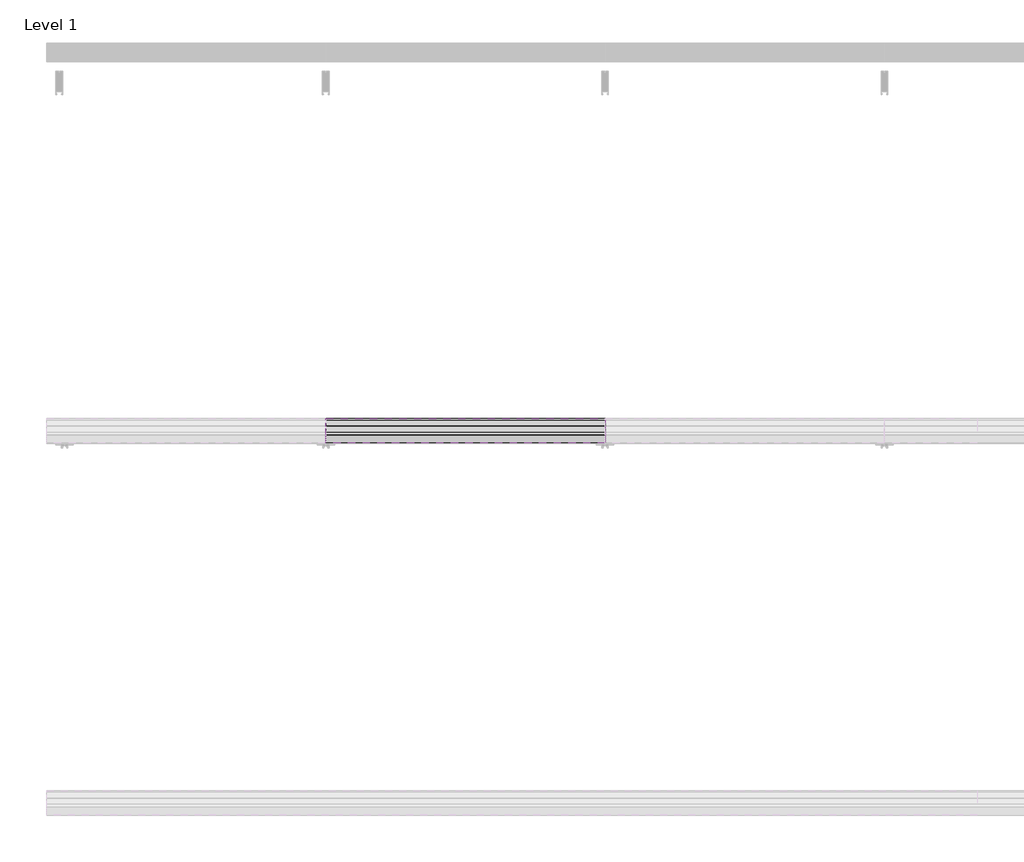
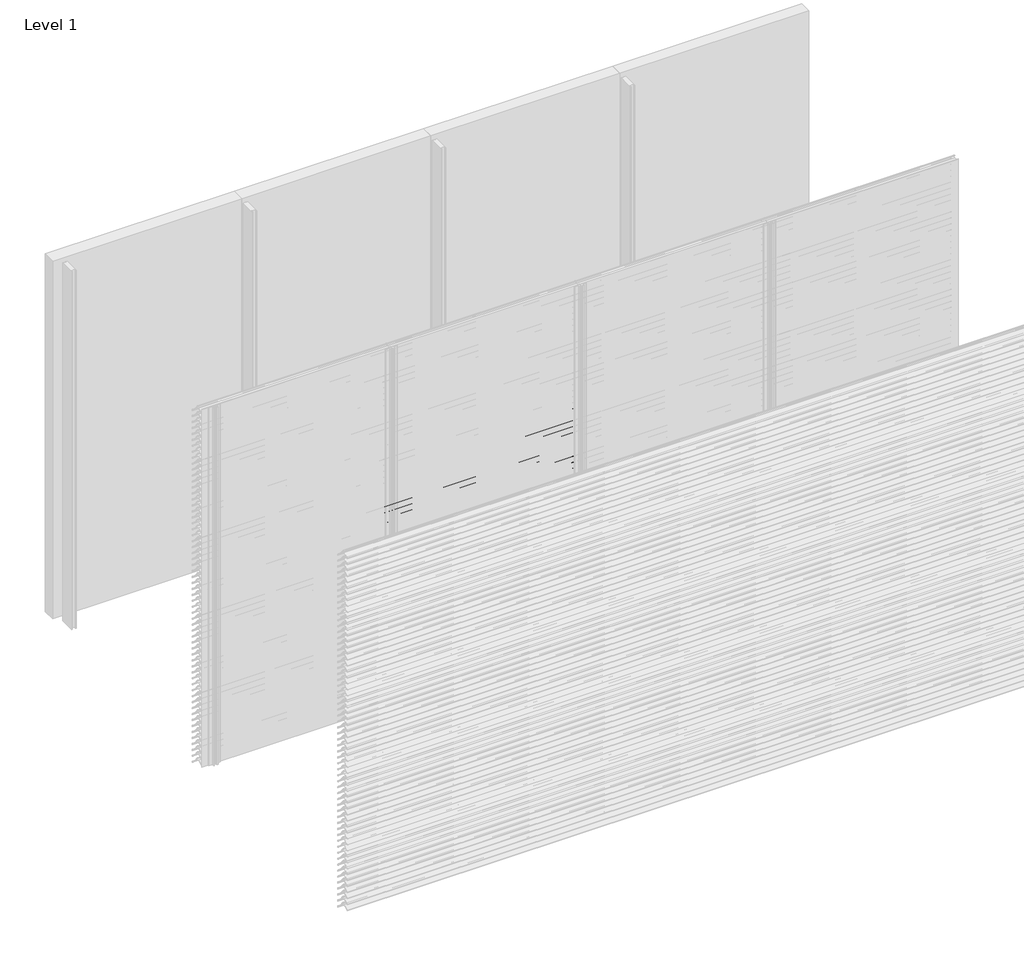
# One storey, part 11 of 173: 17 proxies.
"""IFC4 building model written with IfcOpenShell, lengths in millimetres."""

from ifc_helpers import new_model, si_unit, point, frame, frame_2d, origin, place, context, project, spatial, polyline, circle_curve, trimmed, segment, composite_curve, outline, extrude, element, save

model = new_model("IFC4")

# Units and contexts
model_context = context("Model", 3, world=origin())
ifc_project = project(units=[si_unit("LENGTHUNIT", "METRE", prefix="MILLI")], contexts=[model_context])

# Site, building, storey
site = spatial("IfcSite", under=ifc_project)
building = spatial("IfcBuilding", under=site)
storey = spatial("IfcBuildingStorey", under=building, Name="Level 1", Elevation=0.0)

# Proxies
placement = place(None, origin())
element("IfcBuildingElementProxy", 1, Name="Wall Sweeps", at=placement, inside=storey, context=model_context, shape_type="SweptSolid", body=[
    extrude(outline(composite_curve([segment(polyline([(-53998.0, 1909.1474905), (-53998.0, 1911.6227417)]), True, "CONTINUOUS"), segment(trimmed(circle_curve(frame_2d((-53951.2682172, 1866.2200208)), 65.1557103), [point((-53998.0, 1911.6227417))], [point((-53954.4014323, 1931.3003524))], False, "CARTESIAN"), True, "CONTINUOUS"), segment(polyline([(-53954.4014323, 1931.3003524), (-53934.8315836, 1931.3003524)]), True, "CONTINUOUS"), segment(trimmed(circle_curve(frame_2d((-53732.7329489, 2078.5533172)), 250.0545817), [point((-53934.8315836, 1931.3003524))], [point((-53941.4452143, 1940.8344583))], False, "CARTESIAN"), True, "CONTINUOUS"), segment(trimmed(circle_curve(frame_2d((-53953.2981792, 1935.1737835)), 13.1352966), [point((-53941.4452143, 1940.8344583))], [point((-53953.8171475, 1948.298824))], True, "CARTESIAN"), True, "CONTINUOUS"), segment(polyline([(-53953.8171475, 1948.298824), (-53953.8171475, 1950.0)]), True, "CONTINUOUS"), segment(trimmed(circle_curve(frame_2d((-53953.2981792, 1935.1737835)), 14.8352966), [point((-53953.8171475, 1950.0))], [point((-53939.9637661, 1941.6760487))], False, "CARTESIAN"), True, "CONTINUOUS"), segment(trimmed(circle_curve(frame_2d((-53732.7329489, 2078.5533172)), 248.3545817), [point((-53939.9637661, 1941.6760487))], [point((-53873.8787895, 1874.2059416))], True, "CARTESIAN"), True, "CONTINUOUS"), segment(trimmed(circle_curve(frame_2d((-53883.8147537, 1861.6649442)), 16.0), [point((-53873.8787895, 1874.2059416))], [point((-53867.8648347, 1860.4))], False, "CARTESIAN"), True, "CONTINUOUS"), segment(polyline([(-53867.8648347, 1860.4), (-53869.6712069, 1860.4)]), True, "CONTINUOUS"), segment(trimmed(circle_curve(frame_2d((-53883.8147537, 1861.6649442)), 14.2), [point((-53869.6712069, 1860.4))], [point((-53874.9518628, 1872.7594998))], True, "CARTESIAN"), True, "CONTINUOUS"), segment(trimmed(circle_curve(frame_2d((-53732.7329489, 2078.5533172)), 250.1545817), [point((-53874.9518628, 1872.7594998))], [point((-53933.7064024, 1929.6003524))], False, "CARTESIAN"), True, "CONTINUOUS"), segment(polyline([(-53933.7064024, 1929.6003524), (-53954.3602632, 1929.6003524)]), True, "CONTINUOUS"), segment(trimmed(circle_curve(frame_2d((-53951.2682172, 1866.2200208)), 63.4557103), [point((-53954.3602632, 1929.6003524))], [point((-53998.0, 1909.1474905))], True, "CARTESIAN"), True, "CONTINUOUS")], self_intersect=False)), frame((1500.0, 0.0, 0.0), z_axis=(1.0, 0.0, 0.0), x_axis=(0.0, 1.0, 0.0)), (0.0, 0.0, 1.0), 1500.0),
])
element("IfcBuildingElementProxy", 2, Name="Wall Sweeps", at=placement, inside=storey, context=model_context, shape_type="SweptSolid", body=[
    extrude(outline(composite_curve([segment(polyline([(-53998.0, 1859.1474905), (-53998.0, 1861.6227417)]), True, "CONTINUOUS"), segment(trimmed(circle_curve(frame_2d((-53951.2682172, 1816.2200208)), 65.1557103), [point((-53998.0, 1861.6227417))], [point((-53954.4014323, 1881.3003524))], False, "CARTESIAN"), True, "CONTINUOUS"), segment(polyline([(-53954.4014323, 1881.3003524), (-53934.8315836, 1881.3003524)]), True, "CONTINUOUS"), segment(trimmed(circle_curve(frame_2d((-53732.7329489, 2028.5533172)), 250.0545817), [point((-53934.8315836, 1881.3003524))], [point((-53941.4452143, 1890.8344583))], False, "CARTESIAN"), True, "CONTINUOUS"), segment(trimmed(circle_curve(frame_2d((-53953.2981792, 1885.1737835)), 13.1352966), [point((-53941.4452143, 1890.8344583))], [point((-53953.8171475, 1898.298824))], True, "CARTESIAN"), True, "CONTINUOUS"), segment(polyline([(-53953.8171475, 1898.298824), (-53953.8171475, 1900.0)]), True, "CONTINUOUS"), segment(trimmed(circle_curve(frame_2d((-53953.2981792, 1885.1737835)), 14.8352966), [point((-53953.8171475, 1900.0))], [point((-53939.9637661, 1891.6760487))], False, "CARTESIAN"), True, "CONTINUOUS"), segment(trimmed(circle_curve(frame_2d((-53732.7329489, 2028.5533172)), 248.3545817), [point((-53939.9637661, 1891.6760487))], [point((-53873.8787895, 1824.2059416))], True, "CARTESIAN"), True, "CONTINUOUS"), segment(trimmed(circle_curve(frame_2d((-53883.8147537, 1811.6649442)), 16.0), [point((-53873.8787895, 1824.2059416))], [point((-53867.8648347, 1810.4))], False, "CARTESIAN"), True, "CONTINUOUS"), segment(polyline([(-53867.8648347, 1810.4), (-53869.6712069, 1810.4)]), True, "CONTINUOUS"), segment(trimmed(circle_curve(frame_2d((-53883.8147537, 1811.6649442)), 14.2), [point((-53869.6712069, 1810.4))], [point((-53874.9518628, 1822.7594998))], True, "CARTESIAN"), True, "CONTINUOUS"), segment(trimmed(circle_curve(frame_2d((-53732.7329489, 2028.5533172)), 250.1545817), [point((-53874.9518628, 1822.7594998))], [point((-53933.7064024, 1879.6003524))], False, "CARTESIAN"), True, "CONTINUOUS"), segment(polyline([(-53933.7064024, 1879.6003524), (-53954.3602632, 1879.6003524)]), True, "CONTINUOUS"), segment(trimmed(circle_curve(frame_2d((-53951.2682172, 1816.2200208)), 63.4557103), [point((-53954.3602632, 1879.6003524))], [point((-53998.0, 1859.1474905))], True, "CARTESIAN"), True, "CONTINUOUS")], self_intersect=False)), frame((1500.0, 0.0, 0.0), z_axis=(1.0, 0.0, 0.0), x_axis=(0.0, 1.0, 0.0)), (0.0, 0.0, 1.0), 1500.0),
])
element("IfcBuildingElementProxy", 3, Name="Wall Sweeps", at=placement, inside=storey, context=model_context, shape_type="SweptSolid", body=[
    extrude(outline(composite_curve([segment(polyline([(-53998.0, 1809.1474905), (-53998.0, 1811.6227417)]), True, "CONTINUOUS"), segment(trimmed(circle_curve(frame_2d((-53951.2682172, 1766.2200208)), 65.1557103), [point((-53998.0, 1811.6227417))], [point((-53954.4014323, 1831.3003524))], False, "CARTESIAN"), True, "CONTINUOUS"), segment(polyline([(-53954.4014323, 1831.3003524), (-53934.8315836, 1831.3003524)]), True, "CONTINUOUS"), segment(trimmed(circle_curve(frame_2d((-53732.7329489, 1978.5533172)), 250.0545817), [point((-53934.8315836, 1831.3003524))], [point((-53941.4452143, 1840.8344583))], False, "CARTESIAN"), True, "CONTINUOUS"), segment(trimmed(circle_curve(frame_2d((-53953.2981792, 1835.1737835)), 13.1352966), [point((-53941.4452143, 1840.8344583))], [point((-53953.8171475, 1848.298824))], True, "CARTESIAN"), True, "CONTINUOUS"), segment(polyline([(-53953.8171475, 1848.298824), (-53953.8171475, 1850.0)]), True, "CONTINUOUS"), segment(trimmed(circle_curve(frame_2d((-53953.2981792, 1835.1737835)), 14.8352966), [point((-53953.8171475, 1850.0))], [point((-53939.9637661, 1841.6760487))], False, "CARTESIAN"), True, "CONTINUOUS"), segment(trimmed(circle_curve(frame_2d((-53732.7329489, 1978.5533172)), 248.3545817), [point((-53939.9637661, 1841.6760487))], [point((-53873.8787895, 1774.2059416))], True, "CARTESIAN"), True, "CONTINUOUS"), segment(trimmed(circle_curve(frame_2d((-53883.8147537, 1761.6649442)), 16.0), [point((-53873.8787895, 1774.2059416))], [point((-53867.8648347, 1760.4))], False, "CARTESIAN"), True, "CONTINUOUS"), segment(polyline([(-53867.8648347, 1760.4), (-53869.6712069, 1760.4)]), True, "CONTINUOUS"), segment(trimmed(circle_curve(frame_2d((-53883.8147537, 1761.6649442)), 14.2), [point((-53869.6712069, 1760.4))], [point((-53874.9518628, 1772.7594998))], True, "CARTESIAN"), True, "CONTINUOUS"), segment(trimmed(circle_curve(frame_2d((-53732.7329489, 1978.5533172)), 250.1545817), [point((-53874.9518628, 1772.7594998))], [point((-53933.7064024, 1829.6003524))], False, "CARTESIAN"), True, "CONTINUOUS"), segment(polyline([(-53933.7064024, 1829.6003524), (-53954.3602632, 1829.6003524)]), True, "CONTINUOUS"), segment(trimmed(circle_curve(frame_2d((-53951.2682172, 1766.2200208)), 63.4557103), [point((-53954.3602632, 1829.6003524))], [point((-53998.0, 1809.1474905))], True, "CARTESIAN"), True, "CONTINUOUS")], self_intersect=False)), frame((1500.0, 0.0, 0.0), z_axis=(1.0, 0.0, 0.0), x_axis=(0.0, 1.0, 0.0)), (0.0, 0.0, 1.0), 1500.0),
])
element("IfcBuildingElementProxy", 4, Name="Wall Sweeps", at=placement, inside=storey, context=model_context, shape_type="SweptSolid", body=[
    extrude(outline(composite_curve([segment(polyline([(-53998.0, 1759.1474905), (-53998.0, 1761.6227417)]), True, "CONTINUOUS"), segment(trimmed(circle_curve(frame_2d((-53951.2682172, 1716.2200208)), 65.1557103), [point((-53998.0, 1761.6227417))], [point((-53954.4014323, 1781.3003524))], False, "CARTESIAN"), True, "CONTINUOUS"), segment(polyline([(-53954.4014323, 1781.3003524), (-53934.8315836, 1781.3003524)]), True, "CONTINUOUS"), segment(trimmed(circle_curve(frame_2d((-53732.7329489, 1928.5533172)), 250.0545817), [point((-53934.8315836, 1781.3003524))], [point((-53941.4452143, 1790.8344583))], False, "CARTESIAN"), True, "CONTINUOUS"), segment(trimmed(circle_curve(frame_2d((-53953.2981792, 1785.1737835)), 13.1352966), [point((-53941.4452143, 1790.8344583))], [point((-53953.8171475, 1798.298824))], True, "CARTESIAN"), True, "CONTINUOUS"), segment(polyline([(-53953.8171475, 1798.298824), (-53953.8171475, 1800.0)]), True, "CONTINUOUS"), segment(trimmed(circle_curve(frame_2d((-53953.2981792, 1785.1737835)), 14.8352966), [point((-53953.8171475, 1800.0))], [point((-53939.9637661, 1791.6760487))], False, "CARTESIAN"), True, "CONTINUOUS"), segment(trimmed(circle_curve(frame_2d((-53732.7329489, 1928.5533172)), 248.3545817), [point((-53939.9637661, 1791.6760487))], [point((-53873.8787895, 1724.2059416))], True, "CARTESIAN"), True, "CONTINUOUS"), segment(trimmed(circle_curve(frame_2d((-53883.8147537, 1711.6649442)), 16.0), [point((-53873.8787895, 1724.2059416))], [point((-53867.8648347, 1710.4))], False, "CARTESIAN"), True, "CONTINUOUS"), segment(polyline([(-53867.8648347, 1710.4), (-53869.6712069, 1710.4)]), True, "CONTINUOUS"), segment(trimmed(circle_curve(frame_2d((-53883.8147537, 1711.6649442)), 14.2), [point((-53869.6712069, 1710.4))], [point((-53874.9518628, 1722.7594998))], True, "CARTESIAN"), True, "CONTINUOUS"), segment(trimmed(circle_curve(frame_2d((-53732.7329489, 1928.5533172)), 250.1545817), [point((-53874.9518628, 1722.7594998))], [point((-53933.7064024, 1779.6003524))], False, "CARTESIAN"), True, "CONTINUOUS"), segment(polyline([(-53933.7064024, 1779.6003524), (-53954.3602632, 1779.6003524)]), True, "CONTINUOUS"), segment(trimmed(circle_curve(frame_2d((-53951.2682172, 1716.2200208)), 63.4557103), [point((-53954.3602632, 1779.6003524))], [point((-53998.0, 1759.1474905))], True, "CARTESIAN"), True, "CONTINUOUS")], self_intersect=False)), frame((1500.0, 0.0, 0.0), z_axis=(1.0, 0.0, 0.0), x_axis=(0.0, 1.0, 0.0)), (0.0, 0.0, 1.0), 1500.0),
])
element("IfcBuildingElementProxy", 5, Name="Wall Sweeps", at=placement, inside=storey, context=model_context, shape_type="SweptSolid", body=[
    extrude(outline(composite_curve([segment(polyline([(-53998.0, 1709.1474905), (-53998.0, 1711.6227417)]), True, "CONTINUOUS"), segment(trimmed(circle_curve(frame_2d((-53951.2682172, 1666.2200208)), 65.1557103), [point((-53998.0, 1711.6227417))], [point((-53954.4014323, 1731.3003524))], False, "CARTESIAN"), True, "CONTINUOUS"), segment(polyline([(-53954.4014323, 1731.3003524), (-53934.8315836, 1731.3003524)]), True, "CONTINUOUS"), segment(trimmed(circle_curve(frame_2d((-53732.7329489, 1878.5533172)), 250.0545817), [point((-53934.8315836, 1731.3003524))], [point((-53941.4452143, 1740.8344583))], False, "CARTESIAN"), True, "CONTINUOUS"), segment(trimmed(circle_curve(frame_2d((-53953.2981792, 1735.1737835)), 13.1352966), [point((-53941.4452143, 1740.8344583))], [point((-53953.8171475, 1748.298824))], True, "CARTESIAN"), True, "CONTINUOUS"), segment(polyline([(-53953.8171475, 1748.298824), (-53953.8171475, 1750.0)]), True, "CONTINUOUS"), segment(trimmed(circle_curve(frame_2d((-53953.2981792, 1735.1737835)), 14.8352966), [point((-53953.8171475, 1750.0))], [point((-53939.9637661, 1741.6760487))], False, "CARTESIAN"), True, "CONTINUOUS"), segment(trimmed(circle_curve(frame_2d((-53732.7329489, 1878.5533172)), 248.3545817), [point((-53939.9637661, 1741.6760487))], [point((-53873.8787895, 1674.2059416))], True, "CARTESIAN"), True, "CONTINUOUS"), segment(trimmed(circle_curve(frame_2d((-53883.8147537, 1661.6649442)), 16.0), [point((-53873.8787895, 1674.2059416))], [point((-53867.8648347, 1660.4))], False, "CARTESIAN"), True, "CONTINUOUS"), segment(polyline([(-53867.8648347, 1660.4), (-53869.6712069, 1660.4)]), True, "CONTINUOUS"), segment(trimmed(circle_curve(frame_2d((-53883.8147537, 1661.6649442)), 14.2), [point((-53869.6712069, 1660.4))], [point((-53874.9518628, 1672.7594998))], True, "CARTESIAN"), True, "CONTINUOUS"), segment(trimmed(circle_curve(frame_2d((-53732.7329489, 1878.5533172)), 250.1545817), [point((-53874.9518628, 1672.7594998))], [point((-53933.7064024, 1729.6003524))], False, "CARTESIAN"), True, "CONTINUOUS"), segment(polyline([(-53933.7064024, 1729.6003524), (-53954.3602632, 1729.6003524)]), True, "CONTINUOUS"), segment(trimmed(circle_curve(frame_2d((-53951.2682172, 1666.2200208)), 63.4557103), [point((-53954.3602632, 1729.6003524))], [point((-53998.0, 1709.1474905))], True, "CARTESIAN"), True, "CONTINUOUS")], self_intersect=False)), frame((1500.0, 0.0, 0.0), z_axis=(1.0, 0.0, 0.0), x_axis=(0.0, 1.0, 0.0)), (0.0, 0.0, 1.0), 1500.0),
])
element("IfcBuildingElementProxy", 6, Name="Wall Sweeps", at=placement, inside=storey, context=model_context, shape_type="SweptSolid", body=[
    extrude(outline(composite_curve([segment(polyline([(-53998.0, 1659.1474905), (-53998.0, 1661.6227417)]), True, "CONTINUOUS"), segment(trimmed(circle_curve(frame_2d((-53951.2682172, 1616.2200208)), 65.1557103), [point((-53998.0, 1661.6227417))], [point((-53954.4014323, 1681.3003524))], False, "CARTESIAN"), True, "CONTINUOUS"), segment(polyline([(-53954.4014323, 1681.3003524), (-53934.8315836, 1681.3003524)]), True, "CONTINUOUS"), segment(trimmed(circle_curve(frame_2d((-53732.7329489, 1828.5533172)), 250.0545817), [point((-53934.8315836, 1681.3003524))], [point((-53941.4452143, 1690.8344583))], False, "CARTESIAN"), True, "CONTINUOUS"), segment(trimmed(circle_curve(frame_2d((-53953.2981792, 1685.1737835)), 13.1352966), [point((-53941.4452143, 1690.8344583))], [point((-53953.8171475, 1698.298824))], True, "CARTESIAN"), True, "CONTINUOUS"), segment(polyline([(-53953.8171475, 1698.298824), (-53953.8171475, 1700.0)]), True, "CONTINUOUS"), segment(trimmed(circle_curve(frame_2d((-53953.2981792, 1685.1737835)), 14.8352966), [point((-53953.8171475, 1700.0))], [point((-53939.9637661, 1691.6760487))], False, "CARTESIAN"), True, "CONTINUOUS"), segment(trimmed(circle_curve(frame_2d((-53732.7329489, 1828.5533172)), 248.3545817), [point((-53939.9637661, 1691.6760487))], [point((-53873.8787895, 1624.2059416))], True, "CARTESIAN"), True, "CONTINUOUS"), segment(trimmed(circle_curve(frame_2d((-53883.8147537, 1611.6649442)), 16.0), [point((-53873.8787895, 1624.2059416))], [point((-53867.8648347, 1610.4))], False, "CARTESIAN"), True, "CONTINUOUS"), segment(polyline([(-53867.8648347, 1610.4), (-53869.6712069, 1610.4)]), True, "CONTINUOUS"), segment(trimmed(circle_curve(frame_2d((-53883.8147537, 1611.6649442)), 14.2), [point((-53869.6712069, 1610.4))], [point((-53874.9518628, 1622.7594998))], True, "CARTESIAN"), True, "CONTINUOUS"), segment(trimmed(circle_curve(frame_2d((-53732.7329489, 1828.5533172)), 250.1545817), [point((-53874.9518628, 1622.7594998))], [point((-53933.7064024, 1679.6003524))], False, "CARTESIAN"), True, "CONTINUOUS"), segment(polyline([(-53933.7064024, 1679.6003524), (-53954.3602632, 1679.6003524)]), True, "CONTINUOUS"), segment(trimmed(circle_curve(frame_2d((-53951.2682172, 1616.2200208)), 63.4557103), [point((-53954.3602632, 1679.6003524))], [point((-53998.0, 1659.1474905))], True, "CARTESIAN"), True, "CONTINUOUS")], self_intersect=False)), frame((1500.0, 0.0, 0.0), z_axis=(1.0, 0.0, 0.0), x_axis=(0.0, 1.0, 0.0)), (0.0, 0.0, 1.0), 1500.0),
])
element("IfcBuildingElementProxy", 7, Name="Wall Sweeps", at=placement, inside=storey, context=model_context, shape_type="SweptSolid", body=[
    extrude(outline(composite_curve([segment(polyline([(-53998.0, 1609.1474905), (-53998.0, 1611.6227417)]), True, "CONTINUOUS"), segment(trimmed(circle_curve(frame_2d((-53951.2682172, 1566.2200208)), 65.1557103), [point((-53998.0, 1611.6227417))], [point((-53954.4014323, 1631.3003524))], False, "CARTESIAN"), True, "CONTINUOUS"), segment(polyline([(-53954.4014323, 1631.3003524), (-53934.8315836, 1631.3003524)]), True, "CONTINUOUS"), segment(trimmed(circle_curve(frame_2d((-53732.7329489, 1778.5533172)), 250.0545817), [point((-53934.8315836, 1631.3003524))], [point((-53941.4452143, 1640.8344583))], False, "CARTESIAN"), True, "CONTINUOUS"), segment(trimmed(circle_curve(frame_2d((-53953.2981792, 1635.1737835)), 13.1352966), [point((-53941.4452143, 1640.8344583))], [point((-53953.8171475, 1648.298824))], True, "CARTESIAN"), True, "CONTINUOUS"), segment(polyline([(-53953.8171475, 1648.298824), (-53953.8171475, 1650.0)]), True, "CONTINUOUS"), segment(trimmed(circle_curve(frame_2d((-53953.2981792, 1635.1737835)), 14.8352966), [point((-53953.8171475, 1650.0))], [point((-53939.9637661, 1641.6760487))], False, "CARTESIAN"), True, "CONTINUOUS"), segment(trimmed(circle_curve(frame_2d((-53732.7329489, 1778.5533172)), 248.3545817), [point((-53939.9637661, 1641.6760487))], [point((-53873.8787895, 1574.2059416))], True, "CARTESIAN"), True, "CONTINUOUS"), segment(trimmed(circle_curve(frame_2d((-53883.8147537, 1561.6649442)), 16.0), [point((-53873.8787895, 1574.2059416))], [point((-53867.8648347, 1560.4))], False, "CARTESIAN"), True, "CONTINUOUS"), segment(polyline([(-53867.8648347, 1560.4), (-53869.6712069, 1560.4)]), True, "CONTINUOUS"), segment(trimmed(circle_curve(frame_2d((-53883.8147537, 1561.6649442)), 14.2), [point((-53869.6712069, 1560.4))], [point((-53874.9518628, 1572.7594998))], True, "CARTESIAN"), True, "CONTINUOUS"), segment(trimmed(circle_curve(frame_2d((-53732.7329489, 1778.5533172)), 250.1545817), [point((-53874.9518628, 1572.7594998))], [point((-53933.7064024, 1629.6003524))], False, "CARTESIAN"), True, "CONTINUOUS"), segment(polyline([(-53933.7064024, 1629.6003524), (-53954.3602632, 1629.6003524)]), True, "CONTINUOUS"), segment(trimmed(circle_curve(frame_2d((-53951.2682172, 1566.2200208)), 63.4557103), [point((-53954.3602632, 1629.6003524))], [point((-53998.0, 1609.1474905))], True, "CARTESIAN"), True, "CONTINUOUS")], self_intersect=False)), frame((1500.0, 0.0, 0.0), z_axis=(1.0, 0.0, 0.0), x_axis=(0.0, 1.0, 0.0)), (0.0, 0.0, 1.0), 1500.0),
])
element("IfcBuildingElementProxy", 8, Name="Wall Sweeps", at=placement, inside=storey, context=model_context, shape_type="SweptSolid", body=[
    extrude(outline(composite_curve([segment(polyline([(-53998.0, 1559.1474905), (-53998.0, 1561.6227417)]), True, "CONTINUOUS"), segment(trimmed(circle_curve(frame_2d((-53951.2682172, 1516.2200208)), 65.1557103), [point((-53998.0, 1561.6227417))], [point((-53954.4014323, 1581.3003524))], False, "CARTESIAN"), True, "CONTINUOUS"), segment(polyline([(-53954.4014323, 1581.3003524), (-53934.8315836, 1581.3003524)]), True, "CONTINUOUS"), segment(trimmed(circle_curve(frame_2d((-53732.7329489, 1728.5533172)), 250.0545817), [point((-53934.8315836, 1581.3003524))], [point((-53941.4452143, 1590.8344583))], False, "CARTESIAN"), True, "CONTINUOUS"), segment(trimmed(circle_curve(frame_2d((-53953.2981792, 1585.1737835)), 13.1352966), [point((-53941.4452143, 1590.8344583))], [point((-53953.8171475, 1598.298824))], True, "CARTESIAN"), True, "CONTINUOUS"), segment(polyline([(-53953.8171475, 1598.298824), (-53953.8171475, 1600.0)]), True, "CONTINUOUS"), segment(trimmed(circle_curve(frame_2d((-53953.2981792, 1585.1737835)), 14.8352966), [point((-53953.8171475, 1600.0))], [point((-53939.9637661, 1591.6760487))], False, "CARTESIAN"), True, "CONTINUOUS"), segment(trimmed(circle_curve(frame_2d((-53732.7329489, 1728.5533172)), 248.3545817), [point((-53939.9637661, 1591.6760487))], [point((-53873.8787895, 1524.2059416))], True, "CARTESIAN"), True, "CONTINUOUS"), segment(trimmed(circle_curve(frame_2d((-53883.8147537, 1511.6649442)), 16.0), [point((-53873.8787895, 1524.2059416))], [point((-53867.8648347, 1510.4))], False, "CARTESIAN"), True, "CONTINUOUS"), segment(polyline([(-53867.8648347, 1510.4), (-53869.6712069, 1510.4)]), True, "CONTINUOUS"), segment(trimmed(circle_curve(frame_2d((-53883.8147537, 1511.6649442)), 14.2), [point((-53869.6712069, 1510.4))], [point((-53874.9518628, 1522.7594998))], True, "CARTESIAN"), True, "CONTINUOUS"), segment(trimmed(circle_curve(frame_2d((-53732.7329489, 1728.5533172)), 250.1545817), [point((-53874.9518628, 1522.7594998))], [point((-53933.7064024, 1579.6003524))], False, "CARTESIAN"), True, "CONTINUOUS"), segment(polyline([(-53933.7064024, 1579.6003524), (-53954.3602632, 1579.6003524)]), True, "CONTINUOUS"), segment(trimmed(circle_curve(frame_2d((-53951.2682172, 1516.2200208)), 63.4557103), [point((-53954.3602632, 1579.6003524))], [point((-53998.0, 1559.1474905))], True, "CARTESIAN"), True, "CONTINUOUS")], self_intersect=False)), frame((1500.0, 0.0, 0.0), z_axis=(1.0, 0.0, 0.0), x_axis=(0.0, 1.0, 0.0)), (0.0, 0.0, 1.0), 1500.0),
])
element("IfcBuildingElementProxy", 9, Name="Wall Sweeps", at=placement, inside=storey, context=model_context, shape_type="SweptSolid", body=[
    extrude(outline(composite_curve([segment(polyline([(-53998.0, 1509.1474905), (-53998.0, 1511.6227417)]), True, "CONTINUOUS"), segment(trimmed(circle_curve(frame_2d((-53951.2682172, 1466.2200208)), 65.1557103), [point((-53998.0, 1511.6227417))], [point((-53954.4014323, 1531.3003524))], False, "CARTESIAN"), True, "CONTINUOUS"), segment(polyline([(-53954.4014323, 1531.3003524), (-53934.8315836, 1531.3003524)]), True, "CONTINUOUS"), segment(trimmed(circle_curve(frame_2d((-53732.7329489, 1678.5533172)), 250.0545817), [point((-53934.8315836, 1531.3003524))], [point((-53941.4452143, 1540.8344583))], False, "CARTESIAN"), True, "CONTINUOUS"), segment(trimmed(circle_curve(frame_2d((-53953.2981792, 1535.1737835)), 13.1352966), [point((-53941.4452143, 1540.8344583))], [point((-53953.8171475, 1548.298824))], True, "CARTESIAN"), True, "CONTINUOUS"), segment(polyline([(-53953.8171475, 1548.298824), (-53953.8171475, 1550.0)]), True, "CONTINUOUS"), segment(trimmed(circle_curve(frame_2d((-53953.2981792, 1535.1737835)), 14.8352966), [point((-53953.8171475, 1550.0))], [point((-53939.9637661, 1541.6760487))], False, "CARTESIAN"), True, "CONTINUOUS"), segment(trimmed(circle_curve(frame_2d((-53732.7329489, 1678.5533172)), 248.3545817), [point((-53939.9637661, 1541.6760487))], [point((-53873.8787895, 1474.2059416))], True, "CARTESIAN"), True, "CONTINUOUS"), segment(trimmed(circle_curve(frame_2d((-53883.8147537, 1461.6649442)), 16.0), [point((-53873.8787895, 1474.2059416))], [point((-53867.8648347, 1460.4))], False, "CARTESIAN"), True, "CONTINUOUS"), segment(polyline([(-53867.8648347, 1460.4), (-53869.6712069, 1460.4)]), True, "CONTINUOUS"), segment(trimmed(circle_curve(frame_2d((-53883.8147537, 1461.6649442)), 14.2), [point((-53869.6712069, 1460.4))], [point((-53874.9518628, 1472.7594998))], True, "CARTESIAN"), True, "CONTINUOUS"), segment(trimmed(circle_curve(frame_2d((-53732.7329489, 1678.5533172)), 250.1545817), [point((-53874.9518628, 1472.7594998))], [point((-53933.7064024, 1529.6003524))], False, "CARTESIAN"), True, "CONTINUOUS"), segment(polyline([(-53933.7064024, 1529.6003524), (-53954.3602632, 1529.6003524)]), True, "CONTINUOUS"), segment(trimmed(circle_curve(frame_2d((-53951.2682172, 1466.2200208)), 63.4557103), [point((-53954.3602632, 1529.6003524))], [point((-53998.0, 1509.1474905))], True, "CARTESIAN"), True, "CONTINUOUS")], self_intersect=False)), frame((1500.0, 0.0, 0.0), z_axis=(1.0, 0.0, 0.0), x_axis=(0.0, 1.0, 0.0)), (0.0, 0.0, 1.0), 1500.0),
])
element("IfcBuildingElementProxy", 10, Name="Wall Sweeps", at=placement, inside=storey, context=model_context, shape_type="SweptSolid", body=[
    extrude(outline(composite_curve([segment(polyline([(-53998.0, 1459.1474905), (-53998.0, 1461.6227417)]), True, "CONTINUOUS"), segment(trimmed(circle_curve(frame_2d((-53951.2682172, 1416.2200208)), 65.1557103), [point((-53998.0, 1461.6227417))], [point((-53954.4014323, 1481.3003524))], False, "CARTESIAN"), True, "CONTINUOUS"), segment(polyline([(-53954.4014323, 1481.3003524), (-53934.8315836, 1481.3003524)]), True, "CONTINUOUS"), segment(trimmed(circle_curve(frame_2d((-53732.7329489, 1628.5533172)), 250.0545817), [point((-53934.8315836, 1481.3003524))], [point((-53941.4452143, 1490.8344583))], False, "CARTESIAN"), True, "CONTINUOUS"), segment(trimmed(circle_curve(frame_2d((-53953.2981792, 1485.1737835)), 13.1352966), [point((-53941.4452143, 1490.8344583))], [point((-53953.8171475, 1498.298824))], True, "CARTESIAN"), True, "CONTINUOUS"), segment(polyline([(-53953.8171475, 1498.298824), (-53953.8171475, 1500.0)]), True, "CONTINUOUS"), segment(trimmed(circle_curve(frame_2d((-53953.2981792, 1485.1737835)), 14.8352966), [point((-53953.8171475, 1500.0))], [point((-53939.9637661, 1491.6760487))], False, "CARTESIAN"), True, "CONTINUOUS"), segment(trimmed(circle_curve(frame_2d((-53732.7329489, 1628.5533172)), 248.3545817), [point((-53939.9637661, 1491.6760487))], [point((-53873.8787895, 1424.2059416))], True, "CARTESIAN"), True, "CONTINUOUS"), segment(trimmed(circle_curve(frame_2d((-53883.8147537, 1411.6649442)), 16.0), [point((-53873.8787895, 1424.2059416))], [point((-53867.8648347, 1410.4))], False, "CARTESIAN"), True, "CONTINUOUS"), segment(polyline([(-53867.8648347, 1410.4), (-53869.6712069, 1410.4)]), True, "CONTINUOUS"), segment(trimmed(circle_curve(frame_2d((-53883.8147537, 1411.6649442)), 14.2), [point((-53869.6712069, 1410.4))], [point((-53874.9518628, 1422.7594998))], True, "CARTESIAN"), True, "CONTINUOUS"), segment(trimmed(circle_curve(frame_2d((-53732.7329489, 1628.5533172)), 250.1545817), [point((-53874.9518628, 1422.7594998))], [point((-53933.7064024, 1479.6003524))], False, "CARTESIAN"), True, "CONTINUOUS"), segment(polyline([(-53933.7064024, 1479.6003524), (-53954.3602632, 1479.6003524)]), True, "CONTINUOUS"), segment(trimmed(circle_curve(frame_2d((-53951.2682172, 1416.2200208)), 63.4557103), [point((-53954.3602632, 1479.6003524))], [point((-53998.0, 1459.1474905))], True, "CARTESIAN"), True, "CONTINUOUS")], self_intersect=False)), frame((1500.0, 0.0, 0.0), z_axis=(1.0, 0.0, 0.0), x_axis=(0.0, 1.0, 0.0)), (0.0, 0.0, 1.0), 1500.0),
])
element("IfcBuildingElementProxy", 11, Name="Wall Sweeps", at=placement, inside=storey, context=model_context, shape_type="SweptSolid", body=[
    extrude(outline(composite_curve([segment(polyline([(-53998.0, 1409.1474905), (-53998.0, 1411.6227417)]), True, "CONTINUOUS"), segment(trimmed(circle_curve(frame_2d((-53951.2682172, 1366.2200208)), 65.1557103), [point((-53998.0, 1411.6227417))], [point((-53954.4014323, 1431.3003524))], False, "CARTESIAN"), True, "CONTINUOUS"), segment(polyline([(-53954.4014323, 1431.3003524), (-53934.8315836, 1431.3003524)]), True, "CONTINUOUS"), segment(trimmed(circle_curve(frame_2d((-53732.7329489, 1578.5533172)), 250.0545817), [point((-53934.8315836, 1431.3003524))], [point((-53941.4452143, 1440.8344583))], False, "CARTESIAN"), True, "CONTINUOUS"), segment(trimmed(circle_curve(frame_2d((-53953.2981792, 1435.1737835)), 13.1352966), [point((-53941.4452143, 1440.8344583))], [point((-53953.8171475, 1448.298824))], True, "CARTESIAN"), True, "CONTINUOUS"), segment(polyline([(-53953.8171475, 1448.298824), (-53953.8171475, 1450.0)]), True, "CONTINUOUS"), segment(trimmed(circle_curve(frame_2d((-53953.2981792, 1435.1737835)), 14.8352966), [point((-53953.8171475, 1450.0))], [point((-53939.9637661, 1441.6760487))], False, "CARTESIAN"), True, "CONTINUOUS"), segment(trimmed(circle_curve(frame_2d((-53732.7329489, 1578.5533172)), 248.3545817), [point((-53939.9637661, 1441.6760487))], [point((-53873.8787895, 1374.2059416))], True, "CARTESIAN"), True, "CONTINUOUS"), segment(trimmed(circle_curve(frame_2d((-53883.8147537, 1361.6649442)), 16.0), [point((-53873.8787895, 1374.2059416))], [point((-53867.8648347, 1360.4))], False, "CARTESIAN"), True, "CONTINUOUS"), segment(polyline([(-53867.8648347, 1360.4), (-53869.6712069, 1360.4)]), True, "CONTINUOUS"), segment(trimmed(circle_curve(frame_2d((-53883.8147537, 1361.6649442)), 14.2), [point((-53869.6712069, 1360.4))], [point((-53874.9518628, 1372.7594998))], True, "CARTESIAN"), True, "CONTINUOUS"), segment(trimmed(circle_curve(frame_2d((-53732.7329489, 1578.5533172)), 250.1545817), [point((-53874.9518628, 1372.7594998))], [point((-53933.7064024, 1429.6003524))], False, "CARTESIAN"), True, "CONTINUOUS"), segment(polyline([(-53933.7064024, 1429.6003524), (-53954.3602632, 1429.6003524)]), True, "CONTINUOUS"), segment(trimmed(circle_curve(frame_2d((-53951.2682172, 1366.2200208)), 63.4557103), [point((-53954.3602632, 1429.6003524))], [point((-53998.0, 1409.1474905))], True, "CARTESIAN"), True, "CONTINUOUS")], self_intersect=False)), frame((1500.0, 0.0, 0.0), z_axis=(1.0, 0.0, 0.0), x_axis=(0.0, 1.0, 0.0)), (0.0, 0.0, 1.0), 1500.0),
])
element("IfcBuildingElementProxy", 12, Name="Wall Sweeps", at=placement, inside=storey, context=model_context, shape_type="SweptSolid", body=[
    extrude(outline(composite_curve([segment(polyline([(-53998.0, 1359.1474905), (-53998.0, 1361.6227417)]), True, "CONTINUOUS"), segment(trimmed(circle_curve(frame_2d((-53951.2682172, 1316.2200208)), 65.1557103), [point((-53998.0, 1361.6227417))], [point((-53954.4014323, 1381.3003524))], False, "CARTESIAN"), True, "CONTINUOUS"), segment(polyline([(-53954.4014323, 1381.3003524), (-53934.8315836, 1381.3003524)]), True, "CONTINUOUS"), segment(trimmed(circle_curve(frame_2d((-53732.7329489, 1528.5533172)), 250.0545817), [point((-53934.8315836, 1381.3003524))], [point((-53941.4452143, 1390.8344583))], False, "CARTESIAN"), True, "CONTINUOUS"), segment(trimmed(circle_curve(frame_2d((-53953.2981792, 1385.1737835)), 13.1352966), [point((-53941.4452143, 1390.8344583))], [point((-53953.8171475, 1398.298824))], True, "CARTESIAN"), True, "CONTINUOUS"), segment(polyline([(-53953.8171475, 1398.298824), (-53953.8171475, 1400.0)]), True, "CONTINUOUS"), segment(trimmed(circle_curve(frame_2d((-53953.2981792, 1385.1737835)), 14.8352966), [point((-53953.8171475, 1400.0))], [point((-53939.9637661, 1391.6760487))], False, "CARTESIAN"), True, "CONTINUOUS"), segment(trimmed(circle_curve(frame_2d((-53732.7329489, 1528.5533172)), 248.3545817), [point((-53939.9637661, 1391.6760487))], [point((-53873.8787895, 1324.2059416))], True, "CARTESIAN"), True, "CONTINUOUS"), segment(trimmed(circle_curve(frame_2d((-53883.8147537, 1311.6649442)), 16.0), [point((-53873.8787895, 1324.2059416))], [point((-53867.8648347, 1310.4))], False, "CARTESIAN"), True, "CONTINUOUS"), segment(polyline([(-53867.8648347, 1310.4), (-53869.6712069, 1310.4)]), True, "CONTINUOUS"), segment(trimmed(circle_curve(frame_2d((-53883.8147537, 1311.6649442)), 14.2), [point((-53869.6712069, 1310.4))], [point((-53874.9518628, 1322.7594998))], True, "CARTESIAN"), True, "CONTINUOUS"), segment(trimmed(circle_curve(frame_2d((-53732.7329489, 1528.5533172)), 250.1545817), [point((-53874.9518628, 1322.7594998))], [point((-53933.7064024, 1379.6003524))], False, "CARTESIAN"), True, "CONTINUOUS"), segment(polyline([(-53933.7064024, 1379.6003524), (-53954.3602632, 1379.6003524)]), True, "CONTINUOUS"), segment(trimmed(circle_curve(frame_2d((-53951.2682172, 1316.2200208)), 63.4557103), [point((-53954.3602632, 1379.6003524))], [point((-53998.0, 1359.1474905))], True, "CARTESIAN"), True, "CONTINUOUS")], self_intersect=False)), frame((1500.0, 0.0, 0.0), z_axis=(1.0, 0.0, 0.0), x_axis=(0.0, 1.0, 0.0)), (0.0, 0.0, 1.0), 1500.0),
])
element("IfcBuildingElementProxy", 13, Name="Wall Sweeps", at=placement, inside=storey, context=model_context, shape_type="SweptSolid", body=[
    extrude(outline(composite_curve([segment(polyline([(-53998.0, 1309.1474905), (-53998.0, 1311.6227417)]), True, "CONTINUOUS"), segment(trimmed(circle_curve(frame_2d((-53951.2682172, 1266.2200208)), 65.1557103), [point((-53998.0, 1311.6227417))], [point((-53954.4014323, 1331.3003524))], False, "CARTESIAN"), True, "CONTINUOUS"), segment(polyline([(-53954.4014323, 1331.3003524), (-53934.8315836, 1331.3003524)]), True, "CONTINUOUS"), segment(trimmed(circle_curve(frame_2d((-53732.7329489, 1478.5533172)), 250.0545817), [point((-53934.8315836, 1331.3003524))], [point((-53941.4452143, 1340.8344583))], False, "CARTESIAN"), True, "CONTINUOUS"), segment(trimmed(circle_curve(frame_2d((-53953.2981792, 1335.1737835)), 13.1352966), [point((-53941.4452143, 1340.8344583))], [point((-53953.8171475, 1348.298824))], True, "CARTESIAN"), True, "CONTINUOUS"), segment(polyline([(-53953.8171475, 1348.298824), (-53953.8171475, 1350.0)]), True, "CONTINUOUS"), segment(trimmed(circle_curve(frame_2d((-53953.2981792, 1335.1737835)), 14.8352966), [point((-53953.8171475, 1350.0))], [point((-53939.9637661, 1341.6760487))], False, "CARTESIAN"), True, "CONTINUOUS"), segment(trimmed(circle_curve(frame_2d((-53732.7329489, 1478.5533172)), 248.3545817), [point((-53939.9637661, 1341.6760487))], [point((-53873.8787895, 1274.2059416))], True, "CARTESIAN"), True, "CONTINUOUS"), segment(trimmed(circle_curve(frame_2d((-53883.8147537, 1261.6649442)), 16.0), [point((-53873.8787895, 1274.2059416))], [point((-53867.8648347, 1260.4))], False, "CARTESIAN"), True, "CONTINUOUS"), segment(polyline([(-53867.8648347, 1260.4), (-53869.6712069, 1260.4)]), True, "CONTINUOUS"), segment(trimmed(circle_curve(frame_2d((-53883.8147537, 1261.6649442)), 14.2), [point((-53869.6712069, 1260.4))], [point((-53874.9518628, 1272.7594998))], True, "CARTESIAN"), True, "CONTINUOUS"), segment(trimmed(circle_curve(frame_2d((-53732.7329489, 1478.5533172)), 250.1545817), [point((-53874.9518628, 1272.7594998))], [point((-53933.7064024, 1329.6003524))], False, "CARTESIAN"), True, "CONTINUOUS"), segment(polyline([(-53933.7064024, 1329.6003524), (-53954.3602632, 1329.6003524)]), True, "CONTINUOUS"), segment(trimmed(circle_curve(frame_2d((-53951.2682172, 1266.2200208)), 63.4557103), [point((-53954.3602632, 1329.6003524))], [point((-53998.0, 1309.1474905))], True, "CARTESIAN"), True, "CONTINUOUS")], self_intersect=False)), frame((1500.0, 0.0, 0.0), z_axis=(1.0, 0.0, 0.0), x_axis=(0.0, 1.0, 0.0)), (0.0, 0.0, 1.0), 1500.0),
])
element("IfcBuildingElementProxy", 14, Name="Wall Sweeps", at=placement, inside=storey, context=model_context, shape_type="SweptSolid", body=[
    extrude(outline(composite_curve([segment(polyline([(-53998.0, 1259.1474905), (-53998.0, 1261.6227417)]), True, "CONTINUOUS"), segment(trimmed(circle_curve(frame_2d((-53951.2682172, 1216.2200208)), 65.1557103), [point((-53998.0, 1261.6227417))], [point((-53954.4014323, 1281.3003524))], False, "CARTESIAN"), True, "CONTINUOUS"), segment(polyline([(-53954.4014323, 1281.3003524), (-53934.8315836, 1281.3003524)]), True, "CONTINUOUS"), segment(trimmed(circle_curve(frame_2d((-53732.7329489, 1428.5533172)), 250.0545817), [point((-53934.8315836, 1281.3003524))], [point((-53941.4452143, 1290.8344583))], False, "CARTESIAN"), True, "CONTINUOUS"), segment(trimmed(circle_curve(frame_2d((-53953.2981792, 1285.1737835)), 13.1352966), [point((-53941.4452143, 1290.8344583))], [point((-53953.8171475, 1298.298824))], True, "CARTESIAN"), True, "CONTINUOUS"), segment(polyline([(-53953.8171475, 1298.298824), (-53953.8171475, 1300.0)]), True, "CONTINUOUS"), segment(trimmed(circle_curve(frame_2d((-53953.2981792, 1285.1737835)), 14.8352966), [point((-53953.8171475, 1300.0))], [point((-53939.9637661, 1291.6760487))], False, "CARTESIAN"), True, "CONTINUOUS"), segment(trimmed(circle_curve(frame_2d((-53732.7329489, 1428.5533172)), 248.3545817), [point((-53939.9637661, 1291.6760487))], [point((-53873.8787895, 1224.2059416))], True, "CARTESIAN"), True, "CONTINUOUS"), segment(trimmed(circle_curve(frame_2d((-53883.8147537, 1211.6649442)), 16.0), [point((-53873.8787895, 1224.2059416))], [point((-53867.8648347, 1210.4))], False, "CARTESIAN"), True, "CONTINUOUS"), segment(polyline([(-53867.8648347, 1210.4), (-53869.6712069, 1210.4)]), True, "CONTINUOUS"), segment(trimmed(circle_curve(frame_2d((-53883.8147537, 1211.6649442)), 14.2), [point((-53869.6712069, 1210.4))], [point((-53874.9518628, 1222.7594998))], True, "CARTESIAN"), True, "CONTINUOUS"), segment(trimmed(circle_curve(frame_2d((-53732.7329489, 1428.5533172)), 250.1545817), [point((-53874.9518628, 1222.7594998))], [point((-53933.7064024, 1279.6003524))], False, "CARTESIAN"), True, "CONTINUOUS"), segment(polyline([(-53933.7064024, 1279.6003524), (-53954.3602632, 1279.6003524)]), True, "CONTINUOUS"), segment(trimmed(circle_curve(frame_2d((-53951.2682172, 1216.2200208)), 63.4557103), [point((-53954.3602632, 1279.6003524))], [point((-53998.0, 1259.1474905))], True, "CARTESIAN"), True, "CONTINUOUS")], self_intersect=False)), frame((1500.0, 0.0, 0.0), z_axis=(1.0, 0.0, 0.0), x_axis=(0.0, 1.0, 0.0)), (0.0, 0.0, 1.0), 1500.0),
])
element("IfcBuildingElementProxy", 15, Name="Wall Sweeps", at=placement, inside=storey, context=model_context, shape_type="SweptSolid", body=[
    extrude(outline(composite_curve([segment(polyline([(-53998.0, 1209.1474905), (-53998.0, 1211.6227417)]), True, "CONTINUOUS"), segment(trimmed(circle_curve(frame_2d((-53951.2682172, 1166.2200208)), 65.1557103), [point((-53998.0, 1211.6227417))], [point((-53954.4014323, 1231.3003524))], False, "CARTESIAN"), True, "CONTINUOUS"), segment(polyline([(-53954.4014323, 1231.3003524), (-53934.8315836, 1231.3003524)]), True, "CONTINUOUS"), segment(trimmed(circle_curve(frame_2d((-53732.7329489, 1378.5533172)), 250.0545817), [point((-53934.8315836, 1231.3003524))], [point((-53941.4452143, 1240.8344583))], False, "CARTESIAN"), True, "CONTINUOUS"), segment(trimmed(circle_curve(frame_2d((-53953.2981792, 1235.1737835)), 13.1352966), [point((-53941.4452143, 1240.8344583))], [point((-53953.8171475, 1248.298824))], True, "CARTESIAN"), True, "CONTINUOUS"), segment(polyline([(-53953.8171475, 1248.298824), (-53953.8171475, 1250.0)]), True, "CONTINUOUS"), segment(trimmed(circle_curve(frame_2d((-53953.2981792, 1235.1737835)), 14.8352966), [point((-53953.8171475, 1250.0))], [point((-53939.9637661, 1241.6760487))], False, "CARTESIAN"), True, "CONTINUOUS"), segment(trimmed(circle_curve(frame_2d((-53732.7329489, 1378.5533172)), 248.3545817), [point((-53939.9637661, 1241.6760487))], [point((-53873.8787895, 1174.2059416))], True, "CARTESIAN"), True, "CONTINUOUS"), segment(trimmed(circle_curve(frame_2d((-53883.8147537, 1161.6649442)), 16.0), [point((-53873.8787895, 1174.2059416))], [point((-53867.8648347, 1160.4))], False, "CARTESIAN"), True, "CONTINUOUS"), segment(polyline([(-53867.8648347, 1160.4), (-53869.6712069, 1160.4)]), True, "CONTINUOUS"), segment(trimmed(circle_curve(frame_2d((-53883.8147537, 1161.6649442)), 14.2), [point((-53869.6712069, 1160.4))], [point((-53874.9518628, 1172.7594998))], True, "CARTESIAN"), True, "CONTINUOUS"), segment(trimmed(circle_curve(frame_2d((-53732.7329489, 1378.5533172)), 250.1545817), [point((-53874.9518628, 1172.7594998))], [point((-53933.7064024, 1229.6003524))], False, "CARTESIAN"), True, "CONTINUOUS"), segment(polyline([(-53933.7064024, 1229.6003524), (-53954.3602632, 1229.6003524)]), True, "CONTINUOUS"), segment(trimmed(circle_curve(frame_2d((-53951.2682172, 1166.2200208)), 63.4557103), [point((-53954.3602632, 1229.6003524))], [point((-53998.0, 1209.1474905))], True, "CARTESIAN"), True, "CONTINUOUS")], self_intersect=False)), frame((1500.0, 0.0, 0.0), z_axis=(1.0, 0.0, 0.0), x_axis=(0.0, 1.0, 0.0)), (0.0, 0.0, 1.0), 1500.0),
])
element("IfcBuildingElementProxy", 16, Name="Wall Sweeps", at=placement, inside=storey, context=model_context, shape_type="SweptSolid", body=[
    extrude(outline(composite_curve([segment(polyline([(-53998.0, 1159.1474905), (-53998.0, 1161.6227417)]), True, "CONTINUOUS"), segment(trimmed(circle_curve(frame_2d((-53951.2682172, 1116.2200208)), 65.1557103), [point((-53998.0, 1161.6227417))], [point((-53954.4014323, 1181.3003524))], False, "CARTESIAN"), True, "CONTINUOUS"), segment(polyline([(-53954.4014323, 1181.3003524), (-53934.8315836, 1181.3003524)]), True, "CONTINUOUS"), segment(trimmed(circle_curve(frame_2d((-53732.7329489, 1328.5533172)), 250.0545817), [point((-53934.8315836, 1181.3003524))], [point((-53941.4452143, 1190.8344583))], False, "CARTESIAN"), True, "CONTINUOUS"), segment(trimmed(circle_curve(frame_2d((-53953.2981792, 1185.1737835)), 13.1352966), [point((-53941.4452143, 1190.8344583))], [point((-53953.8171475, 1198.298824))], True, "CARTESIAN"), True, "CONTINUOUS"), segment(polyline([(-53953.8171475, 1198.298824), (-53953.8171475, 1200.0)]), True, "CONTINUOUS"), segment(trimmed(circle_curve(frame_2d((-53953.2981792, 1185.1737835)), 14.8352966), [point((-53953.8171475, 1200.0))], [point((-53939.9637661, 1191.6760487))], False, "CARTESIAN"), True, "CONTINUOUS"), segment(trimmed(circle_curve(frame_2d((-53732.7329489, 1328.5533172)), 248.3545817), [point((-53939.9637661, 1191.6760487))], [point((-53873.8787895, 1124.2059416))], True, "CARTESIAN"), True, "CONTINUOUS"), segment(trimmed(circle_curve(frame_2d((-53883.8147537, 1111.6649442)), 16.0), [point((-53873.8787895, 1124.2059416))], [point((-53867.8648347, 1110.4))], False, "CARTESIAN"), True, "CONTINUOUS"), segment(polyline([(-53867.8648347, 1110.4), (-53869.6712069, 1110.4)]), True, "CONTINUOUS"), segment(trimmed(circle_curve(frame_2d((-53883.8147537, 1111.6649442)), 14.2), [point((-53869.6712069, 1110.4))], [point((-53874.9518628, 1122.7594998))], True, "CARTESIAN"), True, "CONTINUOUS"), segment(trimmed(circle_curve(frame_2d((-53732.7329489, 1328.5533172)), 250.1545817), [point((-53874.9518628, 1122.7594998))], [point((-53933.7064024, 1179.6003524))], False, "CARTESIAN"), True, "CONTINUOUS"), segment(polyline([(-53933.7064024, 1179.6003524), (-53954.3602632, 1179.6003524)]), True, "CONTINUOUS"), segment(trimmed(circle_curve(frame_2d((-53951.2682172, 1116.2200208)), 63.4557103), [point((-53954.3602632, 1179.6003524))], [point((-53998.0, 1159.1474905))], True, "CARTESIAN"), True, "CONTINUOUS")], self_intersect=False)), frame((1500.0, 0.0, 0.0), z_axis=(1.0, 0.0, 0.0), x_axis=(0.0, 1.0, 0.0)), (0.0, 0.0, 1.0), 1500.0),
])
element("IfcBuildingElementProxy", 17, Name="Wall Sweeps", at=placement, inside=storey, context=model_context, shape_type="SweptSolid", body=[
    extrude(outline(composite_curve([segment(polyline([(-53998.0, 1109.1474905), (-53998.0, 1111.6227417)]), True, "CONTINUOUS"), segment(trimmed(circle_curve(frame_2d((-53951.2682172, 1066.2200208)), 65.1557103), [point((-53998.0, 1111.6227417))], [point((-53954.4014323, 1131.3003524))], False, "CARTESIAN"), True, "CONTINUOUS"), segment(polyline([(-53954.4014323, 1131.3003524), (-53934.8315836, 1131.3003524)]), True, "CONTINUOUS"), segment(trimmed(circle_curve(frame_2d((-53732.7329489, 1278.5533172)), 250.0545817), [point((-53934.8315836, 1131.3003524))], [point((-53941.4452143, 1140.8344583))], False, "CARTESIAN"), True, "CONTINUOUS"), segment(trimmed(circle_curve(frame_2d((-53953.2981792, 1135.1737835)), 13.1352966), [point((-53941.4452143, 1140.8344583))], [point((-53953.8171475, 1148.298824))], True, "CARTESIAN"), True, "CONTINUOUS"), segment(polyline([(-53953.8171475, 1148.298824), (-53953.8171475, 1150.0)]), True, "CONTINUOUS"), segment(trimmed(circle_curve(frame_2d((-53953.2981792, 1135.1737835)), 14.8352966), [point((-53953.8171475, 1150.0))], [point((-53939.9637661, 1141.6760487))], False, "CARTESIAN"), True, "CONTINUOUS"), segment(trimmed(circle_curve(frame_2d((-53732.7329489, 1278.5533172)), 248.3545817), [point((-53939.9637661, 1141.6760487))], [point((-53873.8787895, 1074.2059416))], True, "CARTESIAN"), True, "CONTINUOUS"), segment(trimmed(circle_curve(frame_2d((-53883.8147537, 1061.6649442)), 16.0), [point((-53873.8787895, 1074.2059416))], [point((-53867.8648347, 1060.4))], False, "CARTESIAN"), True, "CONTINUOUS"), segment(polyline([(-53867.8648347, 1060.4), (-53869.6712069, 1060.4)]), True, "CONTINUOUS"), segment(trimmed(circle_curve(frame_2d((-53883.8147537, 1061.6649442)), 14.2), [point((-53869.6712069, 1060.4))], [point((-53874.9518628, 1072.7594998))], True, "CARTESIAN"), True, "CONTINUOUS"), segment(trimmed(circle_curve(frame_2d((-53732.7329489, 1278.5533172)), 250.1545817), [point((-53874.9518628, 1072.7594998))], [point((-53933.7064024, 1129.6003524))], False, "CARTESIAN"), True, "CONTINUOUS"), segment(polyline([(-53933.7064024, 1129.6003524), (-53954.3602632, 1129.6003524)]), True, "CONTINUOUS"), segment(trimmed(circle_curve(frame_2d((-53951.2682172, 1066.2200208)), 63.4557103), [point((-53954.3602632, 1129.6003524))], [point((-53998.0, 1109.1474905))], True, "CARTESIAN"), True, "CONTINUOUS")], self_intersect=False)), frame((1500.0, 0.0, 0.0), z_axis=(1.0, 0.0, 0.0), x_axis=(0.0, 1.0, 0.0)), (0.0, 0.0, 1.0), 1500.0),
])

save(model, "model.ifc")
